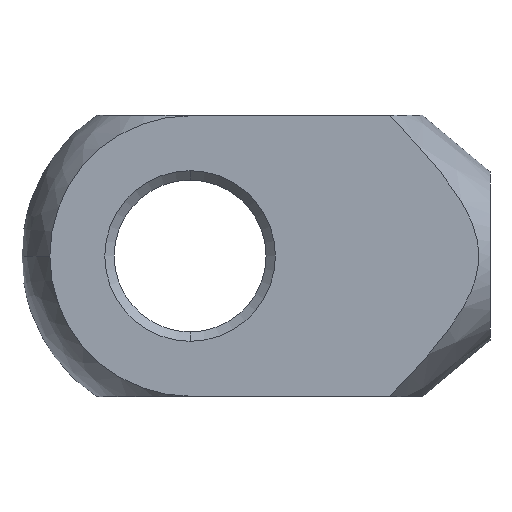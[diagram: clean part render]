
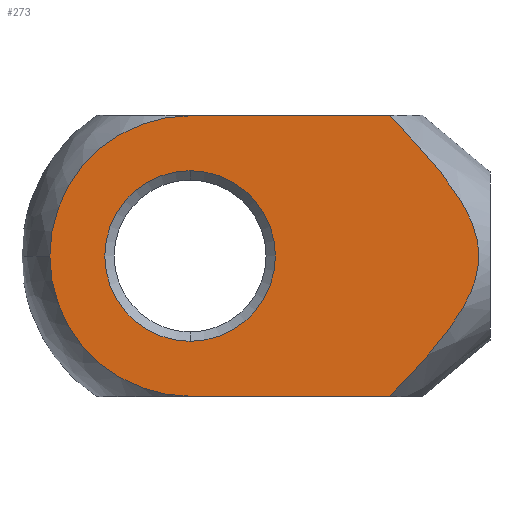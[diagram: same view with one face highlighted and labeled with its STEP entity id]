
A CAD part, left-side view. The second image highlights one B-rep face of the part: STEP entity #273.
In plain terms, the highlighted planar face has unit normal (-1, 0, 0).
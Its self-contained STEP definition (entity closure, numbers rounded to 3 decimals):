
#4 = VERTEX_POINT ( 'NONE', #905 ) ;
#19 = CARTESIAN_POINT ( 'NONE',  ( -5., 0.976, 1.841 ) ) ;
#31 = ORIENTED_EDGE ( 'NONE', *, *, #149, .F. ) ;
#48 = AXIS2_PLACEMENT_3D ( 'NONE', #864, #54, #724 ) ;
#54 = DIRECTION ( 'NONE',  ( -1., 0., 0. ) ) ;
#63 = DIRECTION ( 'NONE',  ( -1., 0., 0. ) ) ;
#70 = AXIS2_PLACEMENT_3D ( 'NONE', #783, #421, #121 ) ;
#95 = CARTESIAN_POINT ( 'NONE',  ( -5., 1.491, 2.854 ) ) ;
#100 = AXIS2_PLACEMENT_3D ( 'NONE', #342, #776, #919 ) ;
#101 = VECTOR ( 'NONE', #366, 1000. ) ;
#113 = ORIENTED_EDGE ( 'NONE', *, *, #325, .F. ) ;
#116 = CARTESIAN_POINT ( 'NONE',  ( -5., 5.363, -7.483 ) ) ;
#121 = DIRECTION ( 'NONE',  ( 0., 0., -1. ) ) ;
#133 = DIRECTION ( 'NONE',  ( 1., 0., 0. ) ) ;
#139 = DIRECTION ( 'NONE',  ( 0., -1., 0. ) ) ;
#149 = EDGE_CURVE ( 'NONE', #408, #4, #831, .T. ) ;
#155 = CARTESIAN_POINT ( 'NONE',  ( -5., 0.987, -1.849 ) ) ;
#156 = CARTESIAN_POINT ( 'NONE',  ( -5., 0.839, 1.486 ) ) ;
#158 = VERTEX_POINT ( 'NONE', #116 ) ;
#159 = B_SPLINE_CURVE_WITH_KNOTS ( 'NONE', 3,
 ( #521, #579, #295, #586, #816, #161, #595, #95, #889, #19, #156, #166, #317, #235, #309, #307, #822, #601, #526, #155, #891, #465, #228, #818, #459, #893, #751, #681, #312, #535 ),
 .UNSPECIFIED., .F., .F.,
 ( 4, 2, 2, 2, 2, 2, 2, 2, 2, 2, 2, 2, 2, 2, 4 ),
 ( 0., 0.002, 0.005, 0.006, 0.007, 0.008, 0.009, 0.009, 0.01, 0.011, 0.011, 0.012, 0.014, 0.016, 0.018 ),
 .UNSPECIFIED. ) ;
#161 = CARTESIAN_POINT ( 'NONE',  ( -5., 2.114, 3.797 ) ) ;
#166 = CARTESIAN_POINT ( 'NONE',  ( -5., 0.696, 0.939 ) ) ;
#171 = CARTESIAN_POINT ( 'NONE',  ( -5., 16., 4.55 ) ) ;
#208 = EDGE_CURVE ( 'NONE', #918, #690, #639, .T. ) ;
#211 = CARTESIAN_POINT ( 'NONE',  ( -5., 16., -7.483 ) ) ;
#217 = VERTEX_POINT ( 'NONE', #292 ) ;
#221 = VECTOR ( 'NONE', #139, 1000. ) ;
#223 = CARTESIAN_POINT ( 'NONE',  ( -5., 16., 7.483 ) ) ;
#227 = CARTESIAN_POINT ( 'NONE',  ( -5., 16., -4.55 ) ) ;
#228 = CARTESIAN_POINT ( 'NONE',  ( -5., 1.494, -2.859 ) ) ;
#229 = CIRCLE ( 'NONE', #70, 7.483 ) ;
#235 = CARTESIAN_POINT ( 'NONE',  ( -5., 0.609, 0.376 ) ) ;
#257 = EDGE_CURVE ( 'NONE', #690, #918, #682, .T. ) ;
#273 = ADVANCED_FACE ( 'NONE', ( #529, #508 ), #503, .F. ) ;
#279 = EDGE_CURVE ( 'NONE', #158, #408, #738, .T. ) ;
#280 = CARTESIAN_POINT ( 'NONE',  ( -5., 0., 7.5 ) ) ;
#292 = CARTESIAN_POINT ( 'NONE',  ( -5., 5.363, 7.483 ) ) ;
#295 = CARTESIAN_POINT ( 'NONE',  ( -5., 4.306, 6.4 ) ) ;
#307 = CARTESIAN_POINT ( 'NONE',  ( -5., 0.597, -0.389 ) ) ;
#309 = CARTESIAN_POINT ( 'NONE',  ( -5., 0.596, 0.185 ) ) ;
#312 = CARTESIAN_POINT ( 'NONE',  ( -5., 4.831, -6.946 ) ) ;
#316 = ORIENTED_EDGE ( 'NONE', *, *, #498, .F. ) ;
#317 = CARTESIAN_POINT ( 'NONE',  ( -5., 0.659, 0.753 ) ) ;
#325 = EDGE_CURVE ( 'NONE', #4, #426, #229, .T. ) ;
#342 = CARTESIAN_POINT ( 'NONE',  ( -5., 16., 0. ) ) ;
#358 = CARTESIAN_POINT ( 'NONE',  ( -5., 0., -7.483 ) ) ;
#366 = DIRECTION ( 'NONE',  ( 0., 1., 0. ) ) ;
#404 = EDGE_CURVE ( 'NONE', #426, #217, #809, .T. ) ;
#408 = VERTEX_POINT ( 'NONE', #211 ) ;
#421 = DIRECTION ( 'NONE',  ( 1., 0., 0. ) ) ;
#426 = VERTEX_POINT ( 'NONE', #223 ) ;
#432 = AXIS2_PLACEMENT_3D ( 'NONE', #280, #133, #862 ) ;
#459 = CARTESIAN_POINT ( 'NONE',  ( -5., 2.12, -3.805 ) ) ;
#465 = CARTESIAN_POINT ( 'NONE',  ( -5., 1.306, -2.532 ) ) ;
#476 = ORIENTED_EDGE ( 'NONE', *, *, #257, .F. ) ;
#498 = EDGE_CURVE ( 'NONE', #217, #158, #159, .T. ) ;
#503 = PLANE ( 'NONE',  #432 ) ;
#508 = FACE_OUTER_BOUND ( 'NONE', #648, .T. ) ;
#521 = CARTESIAN_POINT ( 'NONE',  ( -5., 5.363, 7.483 ) ) ;
#526 = CARTESIAN_POINT ( 'NONE',  ( -5., 0.853, -1.493 ) ) ;
#529 = FACE_BOUND ( 'NONE', #549, .T. ) ;
#535 = CARTESIAN_POINT ( 'NONE',  ( -5., 5.363, -7.483 ) ) ;
#549 = EDGE_LOOP ( 'NONE', ( #476, #629 ) ) ;
#574 = AXIS2_PLACEMENT_3D ( 'NONE', #941, #63, #790 ) ;
#579 = CARTESIAN_POINT ( 'NONE',  ( -5., 4.83, 6.946 ) ) ;
#586 = CARTESIAN_POINT ( 'NONE',  ( -5., 3.291, 5.279 ) ) ;
#595 = CARTESIAN_POINT ( 'NONE',  ( -5., 1.896, 3.489 ) ) ;
#601 = CARTESIAN_POINT ( 'NONE',  ( -5., 0.794, -1.311 ) ) ;
#629 = ORIENTED_EDGE ( 'NONE', *, *, #208, .F. ) ;
#639 = CIRCLE ( 'NONE', #48, 4.55 ) ;
#648 = EDGE_LOOP ( 'NONE', ( #316, #906, #113, #31, #912 ) ) ;
#681 = CARTESIAN_POINT ( 'NONE',  ( -5., 4.308, -6.402 ) ) ;
#682 = CIRCLE ( 'NONE', #574, 4.55 ) ;
#690 = VERTEX_POINT ( 'NONE', #171 ) ;
#724 = DIRECTION ( 'NONE',  ( 0., 0., 1. ) ) ;
#738 = LINE ( 'NONE', #358, #101 ) ;
#751 = CARTESIAN_POINT ( 'NONE',  ( -5., 3.295, -5.283 ) ) ;
#776 = DIRECTION ( 'NONE',  ( 1., 0., 0. ) ) ;
#783 = CARTESIAN_POINT ( 'NONE',  ( -5., 16., 0. ) ) ;
#790 = DIRECTION ( 'NONE',  ( 0., 0., 1. ) ) ;
#809 = LINE ( 'NONE', #875, #221 ) ;
#816 = CARTESIAN_POINT ( 'NONE',  ( -5., 2.798, 4.702 ) ) ;
#818 = CARTESIAN_POINT ( 'NONE',  ( -5., 1.9, -3.495 ) ) ;
#822 = CARTESIAN_POINT ( 'NONE',  ( -5., 0.65, -0.763 ) ) ;
#831 = CIRCLE ( 'NONE', #100, 7.483 ) ;
#862 = DIRECTION ( 'NONE',  ( 0., 0., -1. ) ) ;
#864 = CARTESIAN_POINT ( 'NONE',  ( -5., 16., 0. ) ) ;
#875 = CARTESIAN_POINT ( 'NONE',  ( -5., 0., 7.483 ) ) ;
#889 = CARTESIAN_POINT ( 'NONE',  ( -5., 1.303, 2.527 ) ) ;
#891 = CARTESIAN_POINT ( 'NONE',  ( -5., 1.062, -2.022 ) ) ;
#893 = CARTESIAN_POINT ( 'NONE',  ( -5., 2.804, -4.71 ) ) ;
#905 = CARTESIAN_POINT ( 'NONE',  ( -5., 23.483, 0. ) ) ;
#906 = ORIENTED_EDGE ( 'NONE', *, *, #404, .F. ) ;
#912 = ORIENTED_EDGE ( 'NONE', *, *, #279, .F. ) ;
#918 = VERTEX_POINT ( 'NONE', #227 ) ;
#919 = DIRECTION ( 'NONE',  ( 0., 0., -1. ) ) ;
#941 = CARTESIAN_POINT ( 'NONE',  ( -5., 16., 0. ) ) ;
